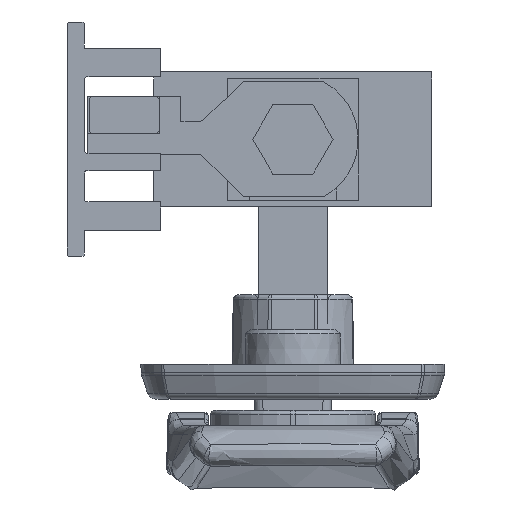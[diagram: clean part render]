
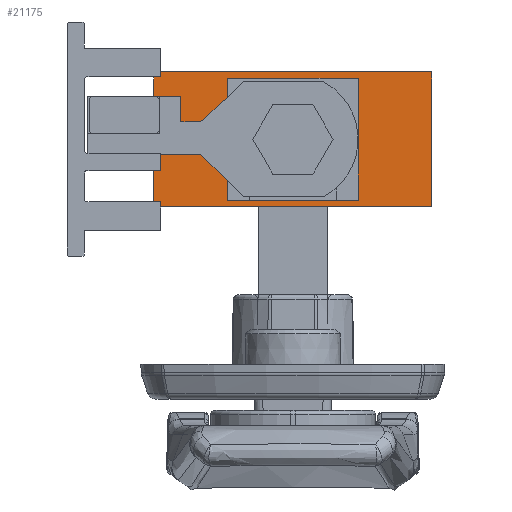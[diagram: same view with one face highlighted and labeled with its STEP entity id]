
A CAD part, front view. The second image highlights one B-rep face of the part: STEP entity #21175.
In plain terms, the highlighted planar face has unit normal (0, -1, 0).
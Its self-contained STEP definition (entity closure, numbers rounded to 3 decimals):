
#224 = EDGE_CURVE ( 'NONE', #20755, #23939, #6623, .T. ) ;
#296 = EDGE_CURVE ( 'NONE', #3385, #531, #26573, .T. ) ;
#297 = FACE_BOUND ( 'NONE', #18920, .T. ) ;
#531 = VERTEX_POINT ( 'NONE', #15523 ) ;
#542 = ORIENTED_EDGE ( 'NONE', *, *, #29428, .F. ) ;
#1175 = ORIENTED_EDGE ( 'NONE', *, *, #11406, .T. ) ;
#1196 = LINE ( 'NONE', #20507, #1298 ) ;
#1298 = VECTOR ( 'NONE', #20952, 1000. ) ;
#2101 = DIRECTION ( 'NONE',  ( 0., 0., 1. ) ) ;
#2569 = ORIENTED_EDGE ( 'NONE', *, *, #6373, .F. ) ;
#3272 = LINE ( 'NONE', #18331, #20517 ) ;
#3385 = VERTEX_POINT ( 'NONE', #26879 ) ;
#3833 = LINE ( 'NONE', #15915, #26317 ) ;
#4863 = DIRECTION ( 'NONE',  ( 0., 0., -1. ) ) ;
#5199 = CARTESIAN_POINT ( 'NONE',  ( -7., -72.75, 6.25 ) ) ;
#6242 = ORIENTED_EDGE ( 'NONE', *, *, #8504, .F. ) ;
#6373 = EDGE_CURVE ( 'NONE', #27909, #14790, #3833, .T. ) ;
#6623 = LINE ( 'NONE', #8987, #15970 ) ;
#7976 = CARTESIAN_POINT ( 'NONE',  ( -16., -72.75, 7.75 ) ) ;
#8305 = EDGE_LOOP ( 'NONE', ( #1175, #19405, #6242, #22069 ) ) ;
#8504 = EDGE_CURVE ( 'NONE', #3385, #20755, #11596, .T. ) ;
#8676 = EDGE_CURVE ( 'NONE', #14790, #19723, #23557, .T. ) ;
#8987 = CARTESIAN_POINT ( 'NONE',  ( 16., -72.75, 7.75 ) ) ;
#9284 = VERTEX_POINT ( 'NONE', #17639 ) ;
#9554 = DIRECTION ( 'NONE',  ( 1., 0., 0. ) ) ;
#10145 = ORIENTED_EDGE ( 'NONE', *, *, #8676, .F. ) ;
#11406 = EDGE_CURVE ( 'NONE', #531, #23939, #1196, .T. ) ;
#11596 = LINE ( 'NONE', #11745, #11852 ) ;
#11661 = LINE ( 'NONE', #23776, #12524 ) ;
#11745 = CARTESIAN_POINT ( 'NONE',  ( -16., -72.75, 7.75 ) ) ;
#11852 = VECTOR ( 'NONE', #16152, 1000. ) ;
#12398 = CARTESIAN_POINT ( 'NONE',  ( 16., -72.75, 7.75 ) ) ;
#12524 = VECTOR ( 'NONE', #2101, 1000. ) ;
#14453 = CARTESIAN_POINT ( 'NONE',  ( -7., -72.75, -6.25 ) ) ;
#14790 = VERTEX_POINT ( 'NONE', #14453 ) ;
#15358 = FACE_OUTER_BOUND ( 'NONE', #8305, .T. ) ;
#15523 = CARTESIAN_POINT ( 'NONE',  ( -16., -72.75, -7.75 ) ) ;
#15915 = CARTESIAN_POINT ( 'NONE',  ( -7., -72.75, -6.25 ) ) ;
#15970 = VECTOR ( 'NONE', #16202, 1000. ) ;
#16152 = DIRECTION ( 'NONE',  ( 1., 0., 0. ) ) ;
#16202 = DIRECTION ( 'NONE',  ( 0., 0., -1. ) ) ;
#17639 = CARTESIAN_POINT ( 'NONE',  ( 7., -72.75, 6.25 ) ) ;
#18331 = CARTESIAN_POINT ( 'NONE',  ( 7., -72.75, 6.25 ) ) ;
#18920 = EDGE_LOOP ( 'NONE', ( #2569, #542, #19097, #10145 ) ) ;
#19097 = ORIENTED_EDGE ( 'NONE', *, *, #31020, .F. ) ;
#19274 = AXIS2_PLACEMENT_3D ( 'NONE', #7976, #24482, #29188 ) ;
#19405 = ORIENTED_EDGE ( 'NONE', *, *, #224, .F. ) ;
#19723 = VERTEX_POINT ( 'NONE', #23548 ) ;
#20507 = CARTESIAN_POINT ( 'NONE',  ( -16., -72.75, -7.75 ) ) ;
#20517 = VECTOR ( 'NONE', #30133, 1000. ) ;
#20755 = VERTEX_POINT ( 'NONE', #12398 ) ;
#20952 = DIRECTION ( 'NONE',  ( 1., 0., 0. ) ) ;
#21175 = ADVANCED_FACE ( 'NONE', ( #297, #15358 ), #24940, .F. ) ;
#22069 = ORIENTED_EDGE ( 'NONE', *, *, #296, .T. ) ;
#22849 = DIRECTION ( 'NONE',  ( 0., 0., -1. ) ) ;
#23548 = CARTESIAN_POINT ( 'NONE',  ( 7., -72.75, -6.25 ) ) ;
#23557 = LINE ( 'NONE', #26555, #30568 ) ;
#23776 = CARTESIAN_POINT ( 'NONE',  ( 7., -72.75, 6.25 ) ) ;
#23939 = VERTEX_POINT ( 'NONE', #26827 ) ;
#24017 = VECTOR ( 'NONE', #4863, 1000. ) ;
#24482 = DIRECTION ( 'NONE',  ( 0., 1., 0. ) ) ;
#24940 = PLANE ( 'NONE',  #19274 ) ;
#26317 = VECTOR ( 'NONE', #22849, 1000. ) ;
#26411 = CARTESIAN_POINT ( 'NONE',  ( -16., -72.75, 7.75 ) ) ;
#26555 = CARTESIAN_POINT ( 'NONE',  ( -7., -72.75, -6.25 ) ) ;
#26573 = LINE ( 'NONE', #26411, #24017 ) ;
#26827 = CARTESIAN_POINT ( 'NONE',  ( 16., -72.75, -7.75 ) ) ;
#26879 = CARTESIAN_POINT ( 'NONE',  ( -16., -72.75, 7.75 ) ) ;
#27909 = VERTEX_POINT ( 'NONE', #5199 ) ;
#29188 = DIRECTION ( 'NONE',  ( 0., 0., 1. ) ) ;
#29428 = EDGE_CURVE ( 'NONE', #9284, #27909, #3272, .T. ) ;
#30133 = DIRECTION ( 'NONE',  ( -1., 0., 0. ) ) ;
#30568 = VECTOR ( 'NONE', #9554, 1000. ) ;
#31020 = EDGE_CURVE ( 'NONE', #19723, #9284, #11661, .T. ) ;
